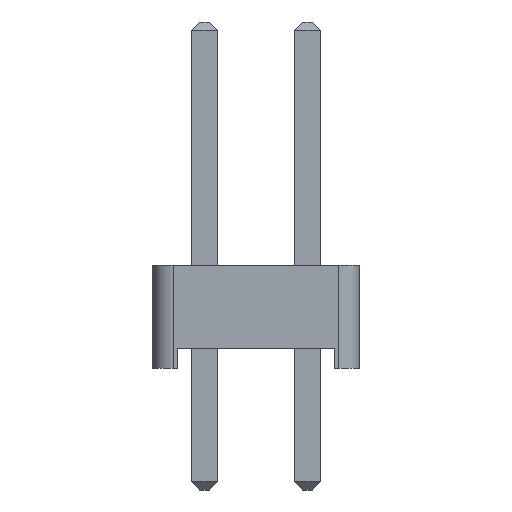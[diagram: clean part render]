
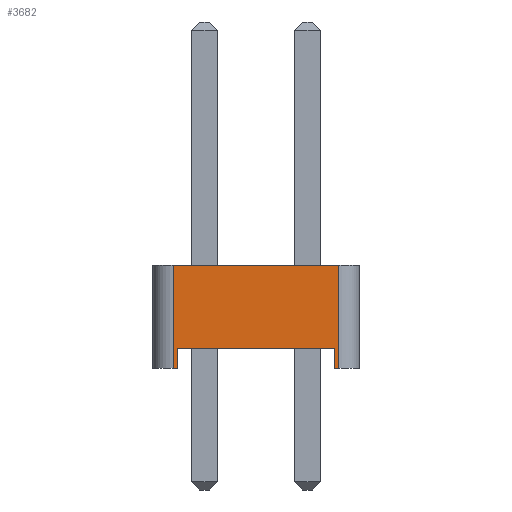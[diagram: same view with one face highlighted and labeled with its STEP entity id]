
A CAD part, left-side view. The second image highlights one B-rep face of the part: STEP entity #3682.
In plain terms, the highlighted planar face has unit normal (-1, 0, 0).
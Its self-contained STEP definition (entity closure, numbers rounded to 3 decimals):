
#3422 = VERTEX_POINT('',#3423);
#3423 = CARTESIAN_POINT('',(-1.27,2.04,0.));
#3431 = PLANE('',#3432);
#3432 = AXIS2_PLACEMENT_3D('',#3433,#3434,#3435);
#3433 = CARTESIAN_POINT('',(0.,0.,0.));
#3434 = DIRECTION('',(-0.,-0.,-1.));
#3435 = DIRECTION('',(-1.,0.,0.));
#3447 = CYLINDRICAL_SURFACE('',#3448,0.5);
#3448 = AXIS2_PLACEMENT_3D('',#3449,#3450,#3451);
#3449 = CARTESIAN_POINT('',(-0.77,2.04,0.));
#3450 = DIRECTION('',(0.,0.,1.));
#3451 = DIRECTION('',(0.,1.,0.));
#3549 = VERTEX_POINT('',#3550);
#3550 = CARTESIAN_POINT('',(-1.27,1.94,0.));
#3564 = PLANE('',#3565);
#3565 = AXIS2_PLACEMENT_3D('',#3566,#3567,#3568);
#3566 = CARTESIAN_POINT('',(1.27,1.94,0.));
#3567 = DIRECTION('',(0.,-1.,0.));
#3568 = DIRECTION('',(-1.,0.,0.));
#3576 = EDGE_CURVE('',#3549,#3422,#3577,.T.);
#3577 = SURFACE_CURVE('',#3578,(#3582,#3589),.PCURVE_S1.);
#3578 = LINE('',#3579,#3580);
#3579 = CARTESIAN_POINT('',(-1.27,-2.54,0.));
#3580 = VECTOR('',#3581,1.);
#3581 = DIRECTION('',(0.,1.,0.));
#3582 = PCURVE('',#3431,#3583);
#3583 = DEFINITIONAL_REPRESENTATION('',(#3584),#3588);
#3584 = LINE('',#3585,#3586);
#3585 = CARTESIAN_POINT('',(1.27,-2.54));
#3586 = VECTOR('',#3587,1.);
#3587 = DIRECTION('',(0.,1.));
#3588 = ( GEOMETRIC_REPRESENTATION_CONTEXT(2) 
PARAMETRIC_REPRESENTATION_CONTEXT() REPRESENTATION_CONTEXT('2D SPACE',''
  ) );
#3589 = PCURVE('',#3590,#3595);
#3590 = PLANE('',#3591);
#3591 = AXIS2_PLACEMENT_3D('',#3592,#3593,#3594);
#3592 = CARTESIAN_POINT('',(-1.27,-2.54,0.));
#3593 = DIRECTION('',(-1.,0.,0.));
#3594 = DIRECTION('',(0.,1.,0.));
#3595 = DEFINITIONAL_REPRESENTATION('',(#3596),#3600);
#3596 = LINE('',#3597,#3598);
#3597 = CARTESIAN_POINT('',(0.,0.));
#3598 = VECTOR('',#3599,1.);
#3599 = DIRECTION('',(1.,0.));
#3600 = ( GEOMETRIC_REPRESENTATION_CONTEXT(2) 
PARAMETRIC_REPRESENTATION_CONTEXT() REPRESENTATION_CONTEXT('2D SPACE',''
  ) );
#3606 = EDGE_CURVE('',#3422,#3607,#3609,.T.);
#3607 = VERTEX_POINT('',#3608);
#3608 = CARTESIAN_POINT('',(-1.27,2.04,2.54));
#3609 = SURFACE_CURVE('',#3610,(#3614,#3621),.PCURVE_S1.);
#3610 = LINE('',#3611,#3612);
#3611 = CARTESIAN_POINT('',(-1.27,2.04,0.));
#3612 = VECTOR('',#3613,1.);
#3613 = DIRECTION('',(0.,0.,1.));
#3614 = PCURVE('',#3447,#3615);
#3615 = DEFINITIONAL_REPRESENTATION('',(#3616),#3620);
#3616 = LINE('',#3617,#3618);
#3617 = CARTESIAN_POINT('',(1.571,0.));
#3618 = VECTOR('',#3619,1.);
#3619 = DIRECTION('',(0.,1.));
#3620 = ( GEOMETRIC_REPRESENTATION_CONTEXT(2) 
PARAMETRIC_REPRESENTATION_CONTEXT() REPRESENTATION_CONTEXT('2D SPACE',''
  ) );
#3621 = PCURVE('',#3590,#3622);
#3622 = DEFINITIONAL_REPRESENTATION('',(#3623),#3627);
#3623 = LINE('',#3624,#3625);
#3624 = CARTESIAN_POINT('',(4.58,0.));
#3625 = VECTOR('',#3626,1.);
#3626 = DIRECTION('',(0.,-1.));
#3627 = ( GEOMETRIC_REPRESENTATION_CONTEXT(2) 
PARAMETRIC_REPRESENTATION_CONTEXT() REPRESENTATION_CONTEXT('2D SPACE',''
  ) );
#3646 = PLANE('',#3647);
#3647 = AXIS2_PLACEMENT_3D('',#3648,#3649,#3650);
#3648 = CARTESIAN_POINT('',(0.,0.,2.54));
#3649 = DIRECTION('',(-0.,-0.,-1.));
#3650 = DIRECTION('',(-1.,0.,0.));
#3682 = ADVANCED_FACE('',(#3683),#3590,.T.);
#3683 = FACE_BOUND('',#3684,.T.);
#3684 = EDGE_LOOP('',(#3685,#3715,#3743,#3764,#3765,#3766,#3789,#3817));
#3685 = ORIENTED_EDGE('',*,*,#3686,.F.);
#3686 = EDGE_CURVE('',#3687,#3689,#3691,.T.);
#3687 = VERTEX_POINT('',#3688);
#3688 = CARTESIAN_POINT('',(-1.27,-2.04,0.));
#3689 = VERTEX_POINT('',#3690);
#3690 = CARTESIAN_POINT('',(-1.27,-1.94,0.));
#3691 = SURFACE_CURVE('',#3692,(#3696,#3703),.PCURVE_S1.);
#3692 = LINE('',#3693,#3694);
#3693 = CARTESIAN_POINT('',(-1.27,-2.54,0.));
#3694 = VECTOR('',#3695,1.);
#3695 = DIRECTION('',(0.,1.,0.));
#3696 = PCURVE('',#3590,#3697);
#3697 = DEFINITIONAL_REPRESENTATION('',(#3698),#3702);
#3698 = LINE('',#3699,#3700);
#3699 = CARTESIAN_POINT('',(0.,0.));
#3700 = VECTOR('',#3701,1.);
#3701 = DIRECTION('',(1.,0.));
#3702 = ( GEOMETRIC_REPRESENTATION_CONTEXT(2) 
PARAMETRIC_REPRESENTATION_CONTEXT() REPRESENTATION_CONTEXT('2D SPACE',''
  ) );
#3703 = PCURVE('',#3704,#3709);
#3704 = PLANE('',#3705);
#3705 = AXIS2_PLACEMENT_3D('',#3706,#3707,#3708);
#3706 = CARTESIAN_POINT('',(0.,0.,0.));
#3707 = DIRECTION('',(-0.,-0.,-1.));
#3708 = DIRECTION('',(-1.,0.,0.));
#3709 = DEFINITIONAL_REPRESENTATION('',(#3710),#3714);
#3710 = LINE('',#3711,#3712);
#3711 = CARTESIAN_POINT('',(1.27,-2.54));
#3712 = VECTOR('',#3713,1.);
#3713 = DIRECTION('',(0.,1.));
#3714 = ( GEOMETRIC_REPRESENTATION_CONTEXT(2) 
PARAMETRIC_REPRESENTATION_CONTEXT() REPRESENTATION_CONTEXT('2D SPACE',''
  ) );
#3715 = ORIENTED_EDGE('',*,*,#3716,.T.);
#3716 = EDGE_CURVE('',#3687,#3717,#3719,.T.);
#3717 = VERTEX_POINT('',#3718);
#3718 = CARTESIAN_POINT('',(-1.27,-2.04,2.54));
#3719 = SURFACE_CURVE('',#3720,(#3724,#3731),.PCURVE_S1.);
#3720 = LINE('',#3721,#3722);
#3721 = CARTESIAN_POINT('',(-1.27,-2.04,0.));
#3722 = VECTOR('',#3723,1.);
#3723 = DIRECTION('',(0.,0.,1.));
#3724 = PCURVE('',#3590,#3725);
#3725 = DEFINITIONAL_REPRESENTATION('',(#3726),#3730);
#3726 = LINE('',#3727,#3728);
#3727 = CARTESIAN_POINT('',(0.5,0.));
#3728 = VECTOR('',#3729,1.);
#3729 = DIRECTION('',(0.,-1.));
#3730 = ( GEOMETRIC_REPRESENTATION_CONTEXT(2) 
PARAMETRIC_REPRESENTATION_CONTEXT() REPRESENTATION_CONTEXT('2D SPACE',''
  ) );
#3731 = PCURVE('',#3732,#3737);
#3732 = CYLINDRICAL_SURFACE('',#3733,0.5);
#3733 = AXIS2_PLACEMENT_3D('',#3734,#3735,#3736);
#3734 = CARTESIAN_POINT('',(-0.77,-2.04,0.));
#3735 = DIRECTION('',(0.,0.,1.));
#3736 = DIRECTION('',(0.,-1.,0.));
#3737 = DEFINITIONAL_REPRESENTATION('',(#3738),#3742);
#3738 = LINE('',#3739,#3740);
#3739 = CARTESIAN_POINT('',(-1.571,0.));
#3740 = VECTOR('',#3741,1.);
#3741 = DIRECTION('',(-0.,1.));
#3742 = ( GEOMETRIC_REPRESENTATION_CONTEXT(2) 
PARAMETRIC_REPRESENTATION_CONTEXT() REPRESENTATION_CONTEXT('2D SPACE',''
  ) );
#3743 = ORIENTED_EDGE('',*,*,#3744,.T.);
#3744 = EDGE_CURVE('',#3717,#3607,#3745,.T.);
#3745 = SURFACE_CURVE('',#3746,(#3750,#3757),.PCURVE_S1.);
#3746 = LINE('',#3747,#3748);
#3747 = CARTESIAN_POINT('',(-1.27,-2.54,2.54));
#3748 = VECTOR('',#3749,1.);
#3749 = DIRECTION('',(0.,1.,0.));
#3750 = PCURVE('',#3590,#3751);
#3751 = DEFINITIONAL_REPRESENTATION('',(#3752),#3756);
#3752 = LINE('',#3753,#3754);
#3753 = CARTESIAN_POINT('',(0.,-2.54));
#3754 = VECTOR('',#3755,1.);
#3755 = DIRECTION('',(1.,0.));
#3756 = ( GEOMETRIC_REPRESENTATION_CONTEXT(2) 
PARAMETRIC_REPRESENTATION_CONTEXT() REPRESENTATION_CONTEXT('2D SPACE',''
  ) );
#3757 = PCURVE('',#3646,#3758);
#3758 = DEFINITIONAL_REPRESENTATION('',(#3759),#3763);
#3759 = LINE('',#3760,#3761);
#3760 = CARTESIAN_POINT('',(1.27,-2.54));
#3761 = VECTOR('',#3762,1.);
#3762 = DIRECTION('',(0.,1.));
#3763 = ( GEOMETRIC_REPRESENTATION_CONTEXT(2) 
PARAMETRIC_REPRESENTATION_CONTEXT() REPRESENTATION_CONTEXT('2D SPACE',''
  ) );
#3764 = ORIENTED_EDGE('',*,*,#3606,.F.);
#3765 = ORIENTED_EDGE('',*,*,#3576,.F.);
#3766 = ORIENTED_EDGE('',*,*,#3767,.T.);
#3767 = EDGE_CURVE('',#3549,#3768,#3770,.T.);
#3768 = VERTEX_POINT('',#3769);
#3769 = CARTESIAN_POINT('',(-1.27,1.94,0.5));
#3770 = SURFACE_CURVE('',#3771,(#3775,#3782),.PCURVE_S1.);
#3771 = LINE('',#3772,#3773);
#3772 = CARTESIAN_POINT('',(-1.27,1.94,0.));
#3773 = VECTOR('',#3774,1.);
#3774 = DIRECTION('',(0.,0.,1.));
#3775 = PCURVE('',#3590,#3776);
#3776 = DEFINITIONAL_REPRESENTATION('',(#3777),#3781);
#3777 = LINE('',#3778,#3779);
#3778 = CARTESIAN_POINT('',(4.48,0.));
#3779 = VECTOR('',#3780,1.);
#3780 = DIRECTION('',(0.,-1.));
#3781 = ( GEOMETRIC_REPRESENTATION_CONTEXT(2) 
PARAMETRIC_REPRESENTATION_CONTEXT() REPRESENTATION_CONTEXT('2D SPACE',''
  ) );
#3782 = PCURVE('',#3564,#3783);
#3783 = DEFINITIONAL_REPRESENTATION('',(#3784),#3788);
#3784 = LINE('',#3785,#3786);
#3785 = CARTESIAN_POINT('',(2.54,0.));
#3786 = VECTOR('',#3787,1.);
#3787 = DIRECTION('',(0.,-1.));
#3788 = ( GEOMETRIC_REPRESENTATION_CONTEXT(2) 
PARAMETRIC_REPRESENTATION_CONTEXT() REPRESENTATION_CONTEXT('2D SPACE',''
  ) );
#3789 = ORIENTED_EDGE('',*,*,#3790,.T.);
#3790 = EDGE_CURVE('',#3768,#3791,#3793,.T.);
#3791 = VERTEX_POINT('',#3792);
#3792 = CARTESIAN_POINT('',(-1.27,-1.94,0.5));
#3793 = SURFACE_CURVE('',#3794,(#3798,#3805),.PCURVE_S1.);
#3794 = LINE('',#3795,#3796);
#3795 = CARTESIAN_POINT('',(-1.27,1.94,0.5));
#3796 = VECTOR('',#3797,1.);
#3797 = DIRECTION('',(0.,-1.,0.));
#3798 = PCURVE('',#3590,#3799);
#3799 = DEFINITIONAL_REPRESENTATION('',(#3800),#3804);
#3800 = LINE('',#3801,#3802);
#3801 = CARTESIAN_POINT('',(4.48,-0.5));
#3802 = VECTOR('',#3803,1.);
#3803 = DIRECTION('',(-1.,0.));
#3804 = ( GEOMETRIC_REPRESENTATION_CONTEXT(2) 
PARAMETRIC_REPRESENTATION_CONTEXT() REPRESENTATION_CONTEXT('2D SPACE',''
  ) );
#3805 = PCURVE('',#3806,#3811);
#3806 = PLANE('',#3807);
#3807 = AXIS2_PLACEMENT_3D('',#3808,#3809,#3810);
#3808 = CARTESIAN_POINT('',(0.,0.,0.5));
#3809 = DIRECTION('',(0.,0.,1.));
#3810 = DIRECTION('',(1.,0.,0.));
#3811 = DEFINITIONAL_REPRESENTATION('',(#3812),#3816);
#3812 = LINE('',#3813,#3814);
#3813 = CARTESIAN_POINT('',(-1.27,1.94));
#3814 = VECTOR('',#3815,1.);
#3815 = DIRECTION('',(0.,-1.));
#3816 = ( GEOMETRIC_REPRESENTATION_CONTEXT(2) 
PARAMETRIC_REPRESENTATION_CONTEXT() REPRESENTATION_CONTEXT('2D SPACE',''
  ) );
#3817 = ORIENTED_EDGE('',*,*,#3818,.F.);
#3818 = EDGE_CURVE('',#3689,#3791,#3819,.T.);
#3819 = SURFACE_CURVE('',#3820,(#3824,#3831),.PCURVE_S1.);
#3820 = LINE('',#3821,#3822);
#3821 = CARTESIAN_POINT('',(-1.27,-1.94,0.));
#3822 = VECTOR('',#3823,1.);
#3823 = DIRECTION('',(0.,0.,1.));
#3824 = PCURVE('',#3590,#3825);
#3825 = DEFINITIONAL_REPRESENTATION('',(#3826),#3830);
#3826 = LINE('',#3827,#3828);
#3827 = CARTESIAN_POINT('',(0.6,0.));
#3828 = VECTOR('',#3829,1.);
#3829 = DIRECTION('',(0.,-1.));
#3830 = ( GEOMETRIC_REPRESENTATION_CONTEXT(2) 
PARAMETRIC_REPRESENTATION_CONTEXT() REPRESENTATION_CONTEXT('2D SPACE',''
  ) );
#3831 = PCURVE('',#3832,#3837);
#3832 = PLANE('',#3833);
#3833 = AXIS2_PLACEMENT_3D('',#3834,#3835,#3836);
#3834 = CARTESIAN_POINT('',(-1.27,-1.94,0.));
#3835 = DIRECTION('',(0.,1.,0.));
#3836 = DIRECTION('',(1.,0.,0.));
#3837 = DEFINITIONAL_REPRESENTATION('',(#3838),#3842);
#3838 = LINE('',#3839,#3840);
#3839 = CARTESIAN_POINT('',(0.,0.));
#3840 = VECTOR('',#3841,1.);
#3841 = DIRECTION('',(0.,-1.));
#3842 = ( GEOMETRIC_REPRESENTATION_CONTEXT(2) 
PARAMETRIC_REPRESENTATION_CONTEXT() REPRESENTATION_CONTEXT('2D SPACE',''
  ) );
